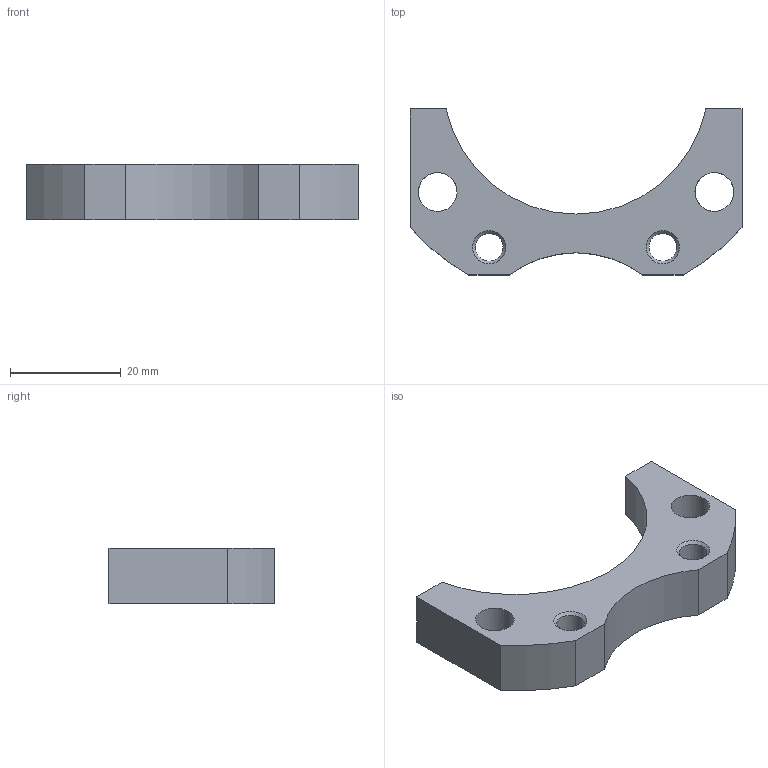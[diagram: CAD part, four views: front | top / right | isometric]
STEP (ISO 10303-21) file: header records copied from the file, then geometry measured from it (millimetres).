
FILE_DESCRIPTION(/* description */ (''),/* implementation_level */ '2;1');
FILE_NAME(/* name */ '092_semiflangia_tubo.stp',/* time_stamp */ '2020-01-13T11:18:15+01:00',/* author */ (''),/* organization */ (''),/* preprocessor_version */ 'ST-DEVELOPER v16.7',/* originating_system */ 'SIEMENS PLM Software NX 12.0',/* authorisation */ '');
FILE_SCHEMA (('AUTOMOTIVE_DESIGN { 1 0 10303 214 3 1 1 1 }'));
Length unit declared in the file: millimetre
Products named in the file (1): bez33CCFDAD1b43
Bounding box: 60 x 30 x 10 mm (x, y, z)
Volume: 8420.7 mm3; surface area: 4279.8 mm2
Topology: 1 solids, 1 shells, 21 faces, 59 edges, 38 vertices
Faces by surface type: cylinder 8, plane 8, cone 5
Full cylindrical faces by diameter (mm): 5 x2, 7 x2
Entity records: 702 total; most frequent: CARTESIAN_POINT 143, DIRECTION 112, ORIENTED_EDGE 98, EDGE_CURVE 49, AXIS2_PLACEMENT_3D 45, VERTEX_POINT 36, EDGE_LOOP 35, FACE_BOUND 24
